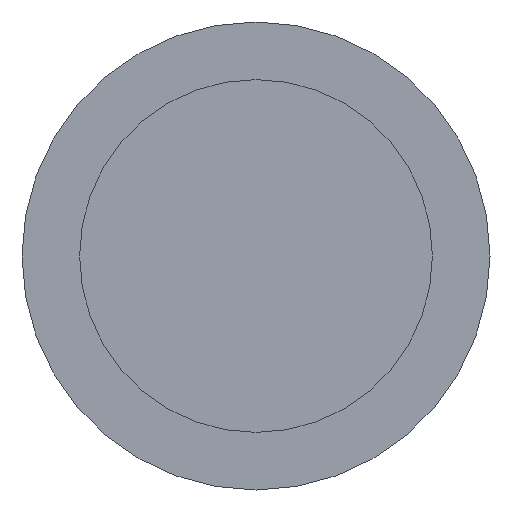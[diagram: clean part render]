
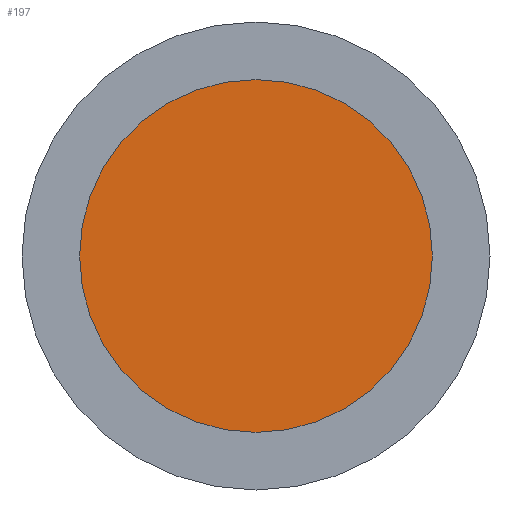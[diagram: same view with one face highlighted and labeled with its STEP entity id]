
A CAD part, front view. The second image highlights one B-rep face of the part: STEP entity #197.
In plain terms, the highlighted planar face has unit normal (0, -1, 0).
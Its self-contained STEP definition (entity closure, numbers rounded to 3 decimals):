
#4 = FACE_OUTER_BOUND ( 'NONE', #222, .T. ) ;
#9 = EDGE_CURVE ( 'NONE', #318, #118, #106, .T. ) ;
#13 = ORIENTED_EDGE ( 'NONE', *, *, #289, .T. ) ;
#45 = CARTESIAN_POINT ( 'NONE',  ( 0., 0., 0. ) ) ;
#106 = CIRCLE ( 'NONE', #174, 4.75 ) ;
#109 = DIRECTION ( 'NONE',  ( 0., -1., 0. ) ) ;
#110 = DIRECTION ( 'NONE',  ( 0., -1., 0. ) ) ;
#118 = VERTEX_POINT ( 'NONE', #264 ) ;
#132 = DIRECTION ( 'NONE',  ( 0., 0., -1. ) ) ;
#156 = CARTESIAN_POINT ( 'NONE',  ( 4.75, 0., 0. ) ) ;
#174 = AXIS2_PLACEMENT_3D ( 'NONE', #272, #110, #307 ) ;
#181 = CARTESIAN_POINT ( 'NONE',  ( 0., 0., 4.75 ) ) ;
#197 = ADVANCED_FACE ( 'NONE', ( #4 ), #358, .T. ) ;
#202 = DIRECTION ( 'NONE',  ( 0., -1., 0. ) ) ;
#222 = EDGE_LOOP ( 'NONE', ( #13, #352 ) ) ;
#264 = CARTESIAN_POINT ( 'NONE',  ( 0., 0., -4.75 ) ) ;
#268 = DIRECTION ( 'NONE',  ( 0., 0., -1. ) ) ;
#272 = CARTESIAN_POINT ( 'NONE',  ( 0., 0., 0. ) ) ;
#289 = EDGE_CURVE ( 'NONE', #118, #318, #321, .T. ) ;
#307 = DIRECTION ( 'NONE',  ( 0., 0., -1. ) ) ;
#318 = VERTEX_POINT ( 'NONE', #181 ) ;
#321 = CIRCLE ( 'NONE', #371, 4.75 ) ;
#352 = ORIENTED_EDGE ( 'NONE', *, *, #9, .T. ) ;
#358 = PLANE ( 'NONE',  #362 ) ;
#362 = AXIS2_PLACEMENT_3D ( 'NONE', #156, #202, #268 ) ;
#371 = AXIS2_PLACEMENT_3D ( 'NONE', #45, #109, #132 ) ;
